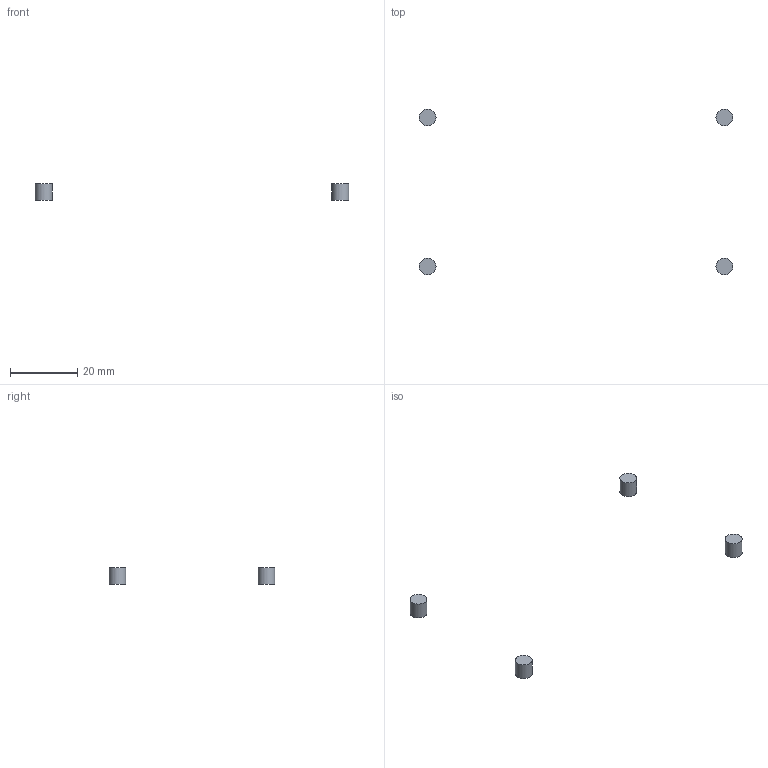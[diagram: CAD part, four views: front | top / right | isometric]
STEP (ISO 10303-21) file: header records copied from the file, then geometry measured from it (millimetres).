
FILE_DESCRIPTION(('Open CASCADE Model'),'2;1');
FILE_NAME('Open CASCADE Shape Model','2026-09-29T12:48:04',('Author'),( 'Open CASCADE'),'Open CASCADE STEP processor 7.9','Open CASCADE 7.9' ,'Unknown');
FILE_SCHEMA(('AUTOMOTIVE_DESIGN { 1 0 10303 214 1 1 1 1 }'));
Length unit declared in the file: millimetre
Products named in the file (5): Open CASCADE STEP translator 7.9 27; Open CASCADE STEP translator 7.9 27.1; Open CASCADE STEP translator 7.9 27.2; Open CASCADE STEP translator 7.9 27.3; Open CASCADE STEP translator 7.9 27.4
Assembly tree (4 placements, depth 2):
  Open CASCADE STEP translator 7.9 27
    Open CASCADE STEP translator 7.9 27.1
    Open CASCADE STEP translator 7.9 27.2
    Open CASCADE STEP translator 7.9 27.3
    Open CASCADE STEP translator 7.9 27.4
Bounding box: 93 x 49.2 x 5 mm (x, y, z)
Volume: 392.7 mm3; surface area: 471.2 mm2
Topology: 4 solids, 4 shells, 12 faces, 12 edges, 8 vertices
Faces by surface type: plane 8, cylinder 4
Full cylindrical faces by diameter (mm): 5 x4
Entity records: 456 total; most frequent: DIRECTION 78, CARTESIAN_POINT 61, AXIS2_PLACEMENT_3D 25, ORIENTED_EDGE 24, PCURVE 24, DEFINITIONAL_REPRESENTATION 24, LINE 20, VECTOR 20
